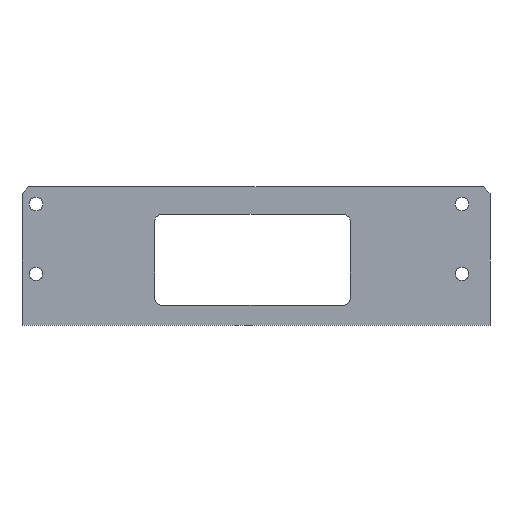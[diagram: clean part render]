
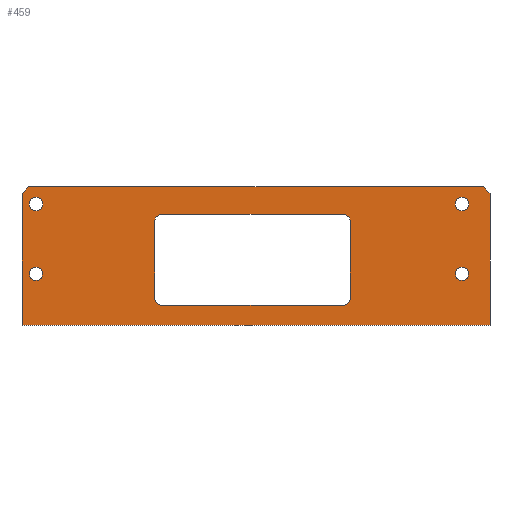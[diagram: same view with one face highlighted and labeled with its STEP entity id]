
A CAD part, top view. The second image highlights one B-rep face of the part: STEP entity #459.
In plain terms, the highlighted planar face has unit normal (0, 0, 1).
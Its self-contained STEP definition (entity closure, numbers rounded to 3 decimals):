
#41=FACE_BOUND('',#124,.T.);
#42=FACE_BOUND('',#125,.T.);
#43=FACE_BOUND('',#126,.T.);
#44=FACE_BOUND('',#127,.T.);
#45=FACE_BOUND('',#128,.T.);
#83=PLANE('',#518);
#103=FACE_OUTER_BOUND('',#123,.T.);
#123=EDGE_LOOP('',(#397,#398,#399,#400,#401,#402));
#124=EDGE_LOOP('',(#403,#404,#405,#406,#407,#408,#409,#410));
#125=EDGE_LOOP('',(#411));
#126=EDGE_LOOP('',(#412));
#127=EDGE_LOOP('',(#413));
#128=EDGE_LOOP('',(#414));
#142=LINE('',#706,#180);
#146=LINE('',#718,#184);
#150=LINE('',#730,#188);
#154=LINE('',#740,#192);
#157=LINE('',#748,#195);
#160=LINE('',#754,#198);
#163=LINE('',#760,#201);
#166=LINE('',#766,#204);
#169=LINE('',#772,#207);
#172=LINE('',#776,#210);
#180=VECTOR('',#573,10.);
#184=VECTOR('',#585,10.);
#188=VECTOR('',#597,10.);
#192=VECTOR('',#609,10.);
#195=VECTOR('',#614,10.);
#198=VECTOR('',#619,10.);
#201=VECTOR('',#624,10.);
#204=VECTOR('',#629,10.);
#207=VECTOR('',#634,10.);
#210=VECTOR('',#639,10.);
#211=CIRCLE('',#485,4.75);
#213=CIRCLE('',#488,4.75);
#215=CIRCLE('',#491,4.75);
#217=CIRCLE('',#494,4.75);
#220=CIRCLE('',#498,5.);
#222=CIRCLE('',#502,5.);
#224=CIRCLE('',#506,5.);
#226=CIRCLE('',#510,5.);
#235=VERTEX_POINT('',#670);
#237=VERTEX_POINT('',#676);
#239=VERTEX_POINT('',#682);
#241=VERTEX_POINT('',#688);
#245=VERTEX_POINT('',#697);
#246=VERTEX_POINT('',#699);
#248=VERTEX_POINT('',#705);
#250=VERTEX_POINT('',#711);
#252=VERTEX_POINT('',#717);
#254=VERTEX_POINT('',#723);
#256=VERTEX_POINT('',#729);
#258=VERTEX_POINT('',#735);
#261=VERTEX_POINT('',#745);
#262=VERTEX_POINT('',#747);
#264=VERTEX_POINT('',#753);
#266=VERTEX_POINT('',#759);
#268=VERTEX_POINT('',#765);
#270=VERTEX_POINT('',#771);
#271=EDGE_CURVE('',#235,#235,#211,.T.);
#274=EDGE_CURVE('',#237,#237,#213,.T.);
#277=EDGE_CURVE('',#239,#239,#215,.T.);
#280=EDGE_CURVE('',#241,#241,#217,.T.);
#285=EDGE_CURVE('',#246,#245,#220,.T.);
#288=EDGE_CURVE('',#248,#246,#142,.T.);
#291=EDGE_CURVE('',#250,#248,#222,.T.);
#294=EDGE_CURVE('',#252,#250,#146,.T.);
#297=EDGE_CURVE('',#254,#252,#224,.T.);
#300=EDGE_CURVE('',#256,#254,#150,.T.);
#303=EDGE_CURVE('',#258,#256,#226,.T.);
#306=EDGE_CURVE('',#245,#258,#154,.T.);
#309=EDGE_CURVE('',#262,#261,#157,.T.);
#312=EDGE_CURVE('',#264,#262,#160,.T.);
#315=EDGE_CURVE('',#266,#264,#163,.T.);
#318=EDGE_CURVE('',#268,#266,#166,.T.);
#321=EDGE_CURVE('',#270,#268,#169,.T.);
#324=EDGE_CURVE('',#261,#270,#172,.T.);
#397=ORIENTED_EDGE('',*,*,#324,.T.);
#398=ORIENTED_EDGE('',*,*,#321,.T.);
#399=ORIENTED_EDGE('',*,*,#318,.T.);
#400=ORIENTED_EDGE('',*,*,#315,.T.);
#401=ORIENTED_EDGE('',*,*,#312,.T.);
#402=ORIENTED_EDGE('',*,*,#309,.T.);
#403=ORIENTED_EDGE('',*,*,#306,.T.);
#404=ORIENTED_EDGE('',*,*,#303,.T.);
#405=ORIENTED_EDGE('',*,*,#300,.T.);
#406=ORIENTED_EDGE('',*,*,#297,.T.);
#407=ORIENTED_EDGE('',*,*,#294,.T.);
#408=ORIENTED_EDGE('',*,*,#291,.T.);
#409=ORIENTED_EDGE('',*,*,#288,.T.);
#410=ORIENTED_EDGE('',*,*,#285,.T.);
#411=ORIENTED_EDGE('',*,*,#280,.T.);
#412=ORIENTED_EDGE('',*,*,#277,.T.);
#413=ORIENTED_EDGE('',*,*,#274,.T.);
#414=ORIENTED_EDGE('',*,*,#271,.T.);
#459=ADVANCED_FACE('',(#103,#41,#42,#43,#44,#45),#83,.T.);
#485=AXIS2_PLACEMENT_3D('',#671,#536,#537);
#488=AXIS2_PLACEMENT_3D('',#677,#543,#544);
#491=AXIS2_PLACEMENT_3D('',#683,#550,#551);
#494=AXIS2_PLACEMENT_3D('',#689,#557,#558);
#498=AXIS2_PLACEMENT_3D('',#700,#567,#568);
#502=AXIS2_PLACEMENT_3D('',#712,#579,#580);
#506=AXIS2_PLACEMENT_3D('',#724,#591,#592);
#510=AXIS2_PLACEMENT_3D('',#736,#603,#604);
#518=AXIS2_PLACEMENT_3D('',#777,#640,#641);
#536=DIRECTION('center_axis',(0.,0.,-1.));
#537=DIRECTION('ref_axis',(-1.,0.,0.));
#543=DIRECTION('center_axis',(0.,0.,-1.));
#544=DIRECTION('ref_axis',(-1.,0.,0.));
#550=DIRECTION('center_axis',(0.,0.,-1.));
#551=DIRECTION('ref_axis',(-1.,0.,0.));
#557=DIRECTION('center_axis',(0.,0.,-1.));
#558=DIRECTION('ref_axis',(-1.,0.,0.));
#567=DIRECTION('center_axis',(0.,0.,-1.));
#568=DIRECTION('ref_axis',(-1.,0.,0.));
#573=DIRECTION('',(1.,0.,0.));
#579=DIRECTION('center_axis',(0.,0.,-1.));
#580=DIRECTION('ref_axis',(0.,-1.,0.));
#585=DIRECTION('',(0.,1.,0.));
#591=DIRECTION('center_axis',(0.,0.,-1.));
#592=DIRECTION('ref_axis',(1.,0.,0.));
#597=DIRECTION('',(-1.,0.,0.));
#603=DIRECTION('center_axis',(0.,0.,-1.));
#604=DIRECTION('ref_axis',(0.,1.,0.));
#609=DIRECTION('',(0.,-1.,0.));
#614=DIRECTION('',(0.,-1.,0.));
#619=DIRECTION('',(-0.707,-0.707,0.));
#624=DIRECTION('',(-1.,0.,0.));
#629=DIRECTION('',(-0.707,0.707,0.));
#634=DIRECTION('',(0.,1.,0.));
#639=DIRECTION('',(1.,0.,0.));
#640=DIRECTION('center_axis',(0.,0.,1.));
#641=DIRECTION('ref_axis',(1.,0.,0.));
#670=CARTESIAN_POINT('',(-135.25,36.962,0.25));
#671=CARTESIAN_POINT('Origin',(-140.,36.962,0.25));
#676=CARTESIAN_POINT('',(-135.25,86.962,0.25));
#677=CARTESIAN_POINT('Origin',(-140.,86.962,0.25));
#682=CARTESIAN_POINT('',(169.75,86.962,0.25));
#683=CARTESIAN_POINT('Origin',(165.,86.962,0.25));
#688=CARTESIAN_POINT('',(169.75,36.962,0.25));
#689=CARTESIAN_POINT('Origin',(165.,36.962,0.25));
#697=CARTESIAN_POINT('',(85.,74.462,0.25));
#699=CARTESIAN_POINT('',(80.,79.462,0.25));
#700=CARTESIAN_POINT('Origin',(80.,74.462,0.25));
#705=CARTESIAN_POINT('',(-50.,79.462,0.25));
#706=CARTESIAN_POINT('',(-50.,79.462,0.25));
#711=CARTESIAN_POINT('',(-55.,74.462,0.25));
#712=CARTESIAN_POINT('Origin',(-50.,74.462,0.25));
#717=CARTESIAN_POINT('',(-55.,19.462,0.25));
#718=CARTESIAN_POINT('',(-55.,19.462,0.25));
#723=CARTESIAN_POINT('',(-50.,14.462,0.25));
#724=CARTESIAN_POINT('Origin',(-50.,19.462,0.25));
#729=CARTESIAN_POINT('',(80.,14.462,0.25));
#730=CARTESIAN_POINT('',(80.,14.462,0.25));
#735=CARTESIAN_POINT('',(85.,19.462,0.25));
#736=CARTESIAN_POINT('Origin',(80.,19.462,0.25));
#740=CARTESIAN_POINT('',(85.,74.462,0.25));
#745=CARTESIAN_POINT('',(-150.,0.,0.25));
#747=CARTESIAN_POINT('',(-150.,94.462,0.25));
#748=CARTESIAN_POINT('',(-150.,94.462,0.25));
#753=CARTESIAN_POINT('',(-145.,99.462,0.25));
#754=CARTESIAN_POINT('',(-145.,99.462,0.25));
#759=CARTESIAN_POINT('',(180.,99.462,0.25));
#760=CARTESIAN_POINT('',(180.,99.462,0.25));
#765=CARTESIAN_POINT('',(185.,94.462,0.25));
#766=CARTESIAN_POINT('',(185.,94.462,0.25));
#771=CARTESIAN_POINT('',(185.,0.,0.25));
#772=CARTESIAN_POINT('',(185.,0.,0.25));
#776=CARTESIAN_POINT('',(-150.,0.,0.25));
#777=CARTESIAN_POINT('Origin',(17.5,49.731,0.25));
